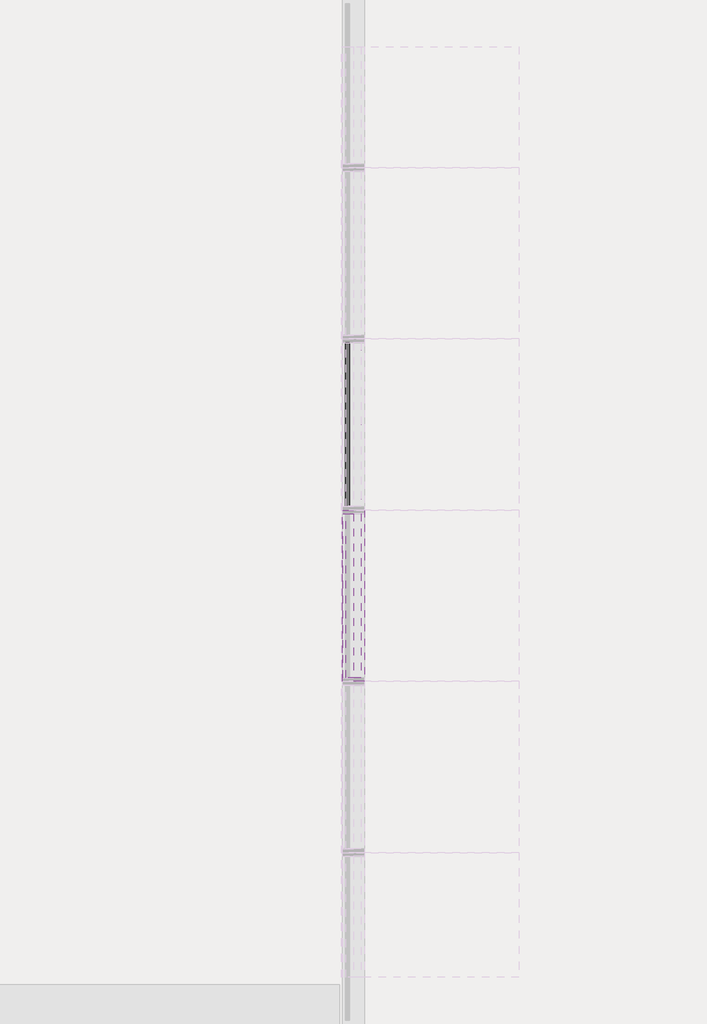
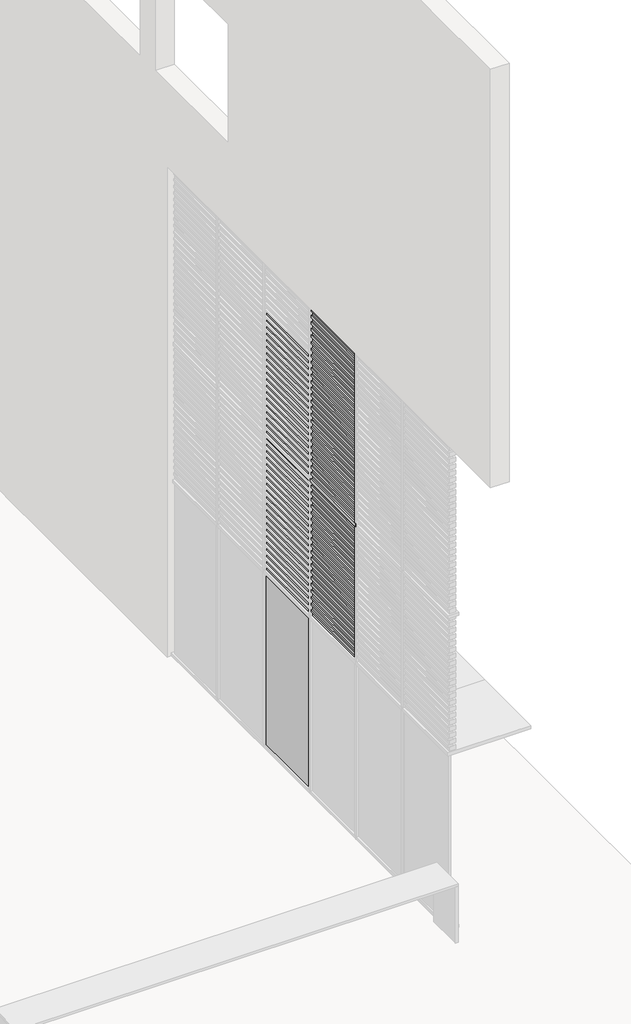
# One storey, part 5 of 8: 89 plates, 47 members.
"""IFC4 building model written with IfcOpenShell, lengths in millimetres."""

from ifc_helpers import new_model, si_unit, origin, place, context, project, spatial, transform, mapped, element, save
from components import rectangular_mullion_50_x_150mm_81a85930, rectangular_mullion_timber_70_x_35_2d2b050c, empty_system_panel_empty_0ae384b7, empty_system_panel_empty_f50b0574, empty_system_panel_empty_9ab0a9e8, system_panel_concept_glazed_5326a568

model = new_model("IFC4")

# Units and contexts
model_context = context("Model", 3, world=origin())
ifc_project = project(units=[si_unit("LENGTHUNIT", "METRE", prefix="MILLI")], contexts=[model_context])

# Site, building, storey
site = spatial("IfcSite", under=ifc_project)
building = spatial("IfcBuilding", under=site)
storey = spatial("IfcBuildingStorey", under=building, Name="0階", Elevation=25100.0)

# Members
placement = place(None, origin())
rectangular_mullion_50_x_150mm_shape = rectangular_mullion_50_x_150mm_81a85930(model_context)
element("IfcMember", 1, ObjectType="Rectangular Mullion : 50 x 150mm", at=placement, inside=storey, context=model_context, shape_type="MappedRepresentation", body=[
    mapped(rectangular_mullion_50_x_150mm_shape, transform((45100.0, 4937.6612462, 29900.0), x_axis=(0.0, 0.0, 1.0), y_axis=(1.0, 0.0, 0.0), z_axis=(0.0, 1.0, 0.0))),
])
rectangular_mullion_timber_70_x_35_shape = rectangular_mullion_timber_70_x_35_2d2b050c(model_context)
element("IfcMember", 2, ObjectType="Rectangular Mullion : Timber - 70 x 35", at=placement, inside=storey, context=model_context, shape_type="MappedRepresentation", body=[
    mapped(rectangular_mullion_timber_70_x_35_shape, transform((45100.0, 4912.6612462, 27907.5), x_axis=(0.0, 0.0, 1.0), y_axis=(1.0, 0.0, 0.0), z_axis=(0.0, 1.0, 0.0))),
])
element("IfcMember", 3, ObjectType="Rectangular Mullion : Timber - 70 x 35", at=placement, inside=storey, context=model_context, shape_type="MappedRepresentation", body=[
    mapped(rectangular_mullion_timber_70_x_35_shape, transform((45100.0, 4912.6612462, 28007.5), x_axis=(0.0, 0.0, 1.0), y_axis=(1.0, 0.0, 0.0), z_axis=(0.0, 1.0, 0.0))),
])
element("IfcMember", 4, ObjectType="Rectangular Mullion : Timber - 70 x 35", at=placement, inside=storey, context=model_context, shape_type="MappedRepresentation", body=[
    mapped(rectangular_mullion_timber_70_x_35_shape, transform((45100.0, 4912.6612462, 28107.5), x_axis=(0.0, 0.0, 1.0), y_axis=(1.0, 0.0, 0.0), z_axis=(0.0, 1.0, 0.0))),
])
element("IfcMember", 5, ObjectType="Rectangular Mullion : Timber - 70 x 35", at=placement, inside=storey, context=model_context, shape_type="MappedRepresentation", body=[
    mapped(rectangular_mullion_timber_70_x_35_shape, transform((45100.0, 4912.6612462, 28207.5), x_axis=(0.0, 0.0, 1.0), y_axis=(1.0, 0.0, 0.0), z_axis=(0.0, 1.0, 0.0))),
])
element("IfcMember", 6, ObjectType="Rectangular Mullion : Timber - 70 x 35", at=placement, inside=storey, context=model_context, shape_type="MappedRepresentation", body=[
    mapped(rectangular_mullion_timber_70_x_35_shape, transform((45100.0, 4912.6612462, 28307.5), x_axis=(0.0, 0.0, 1.0), y_axis=(1.0, 0.0, 0.0), z_axis=(0.0, 1.0, 0.0))),
])
element("IfcMember", 7, ObjectType="Rectangular Mullion : Timber - 70 x 35", at=placement, inside=storey, context=model_context, shape_type="MappedRepresentation", body=[
    mapped(rectangular_mullion_timber_70_x_35_shape, transform((45100.0, 4912.6612462, 28407.5), x_axis=(0.0, 0.0, 1.0), y_axis=(1.0, 0.0, 0.0), z_axis=(0.0, 1.0, 0.0))),
])
element("IfcMember", 8, ObjectType="Rectangular Mullion : Timber - 70 x 35", at=placement, inside=storey, context=model_context, shape_type="MappedRepresentation", body=[
    mapped(rectangular_mullion_timber_70_x_35_shape, transform((45100.0, 4912.6612462, 28507.5), x_axis=(0.0, 0.0, 1.0), y_axis=(1.0, 0.0, 0.0), z_axis=(0.0, 1.0, 0.0))),
])
element("IfcMember", 9, ObjectType="Rectangular Mullion : Timber - 70 x 35", at=placement, inside=storey, context=model_context, shape_type="MappedRepresentation", body=[
    mapped(rectangular_mullion_timber_70_x_35_shape, transform((45100.0, 4912.6612462, 28607.5), x_axis=(0.0, 0.0, 1.0), y_axis=(1.0, 0.0, 0.0), z_axis=(0.0, 1.0, 0.0))),
])
element("IfcMember", 10, ObjectType="Rectangular Mullion : Timber - 70 x 35", at=placement, inside=storey, context=model_context, shape_type="MappedRepresentation", body=[
    mapped(rectangular_mullion_timber_70_x_35_shape, transform((45100.0, 4912.6612462, 28707.5), x_axis=(0.0, 0.0, 1.0), y_axis=(1.0, 0.0, 0.0), z_axis=(0.0, 1.0, 0.0))),
])
element("IfcMember", 11, ObjectType="Rectangular Mullion : Timber - 70 x 35", at=placement, inside=storey, context=model_context, shape_type="MappedRepresentation", body=[
    mapped(rectangular_mullion_timber_70_x_35_shape, transform((45100.0, 4912.6612462, 28807.5), x_axis=(0.0, 0.0, 1.0), y_axis=(1.0, 0.0, 0.0), z_axis=(0.0, 1.0, 0.0))),
])
element("IfcMember", 12, ObjectType="Rectangular Mullion : Timber - 70 x 35", at=placement, inside=storey, context=model_context, shape_type="MappedRepresentation", body=[
    mapped(rectangular_mullion_timber_70_x_35_shape, transform((45100.0, 4912.6612462, 28907.5), x_axis=(0.0, 0.0, 1.0), y_axis=(1.0, 0.0, 0.0), z_axis=(0.0, 1.0, 0.0))),
])
element("IfcMember", 13, ObjectType="Rectangular Mullion : Timber - 70 x 35", at=placement, inside=storey, context=model_context, shape_type="MappedRepresentation", body=[
    mapped(rectangular_mullion_timber_70_x_35_shape, transform((45100.0, 4912.6612462, 29007.5), x_axis=(0.0, 0.0, 1.0), y_axis=(1.0, 0.0, 0.0), z_axis=(0.0, 1.0, 0.0))),
])
element("IfcMember", 14, ObjectType="Rectangular Mullion : Timber - 70 x 35", at=placement, inside=storey, context=model_context, shape_type="MappedRepresentation", body=[
    mapped(rectangular_mullion_timber_70_x_35_shape, transform((45100.0, 4912.6612462, 29107.5), x_axis=(0.0, 0.0, 1.0), y_axis=(1.0, 0.0, 0.0), z_axis=(0.0, 1.0, 0.0))),
])
element("IfcMember", 15, ObjectType="Rectangular Mullion : Timber - 70 x 35", at=placement, inside=storey, context=model_context, shape_type="MappedRepresentation", body=[
    mapped(rectangular_mullion_timber_70_x_35_shape, transform((45100.0, 4912.6612462, 29207.5), x_axis=(0.0, 0.0, 1.0), y_axis=(1.0, 0.0, 0.0), z_axis=(0.0, 1.0, 0.0))),
])
element("IfcMember", 16, ObjectType="Rectangular Mullion : Timber - 70 x 35", at=placement, inside=storey, context=model_context, shape_type="MappedRepresentation", body=[
    mapped(rectangular_mullion_timber_70_x_35_shape, transform((45100.0, 4912.6612462, 29307.5), x_axis=(0.0, 0.0, 1.0), y_axis=(1.0, 0.0, 0.0), z_axis=(0.0, 1.0, 0.0))),
])
element("IfcMember", 17, ObjectType="Rectangular Mullion : Timber - 70 x 35", at=placement, inside=storey, context=model_context, shape_type="MappedRepresentation", body=[
    mapped(rectangular_mullion_timber_70_x_35_shape, transform((45100.0, 4912.6612462, 29407.5), x_axis=(0.0, 0.0, 1.0), y_axis=(1.0, 0.0, 0.0), z_axis=(0.0, 1.0, 0.0))),
])
element("IfcMember", 18, ObjectType="Rectangular Mullion : Timber - 70 x 35", at=placement, inside=storey, context=model_context, shape_type="MappedRepresentation", body=[
    mapped(rectangular_mullion_timber_70_x_35_shape, transform((45100.0, 4912.6612462, 29507.5), x_axis=(0.0, 0.0, 1.0), y_axis=(1.0, 0.0, 0.0), z_axis=(0.0, 1.0, 0.0))),
])
element("IfcMember", 19, ObjectType="Rectangular Mullion : Timber - 70 x 35", at=placement, inside=storey, context=model_context, shape_type="MappedRepresentation", body=[
    mapped(rectangular_mullion_timber_70_x_35_shape, transform((45100.0, 4912.6612462, 29607.5), x_axis=(0.0, 0.0, 1.0), y_axis=(1.0, 0.0, 0.0), z_axis=(0.0, 1.0, 0.0))),
])
element("IfcMember", 20, ObjectType="Rectangular Mullion : Timber - 70 x 35", at=placement, inside=storey, context=model_context, shape_type="MappedRepresentation", body=[
    mapped(rectangular_mullion_timber_70_x_35_shape, transform((45100.0, 4912.6612462, 29707.5), x_axis=(0.0, 0.0, 1.0), y_axis=(1.0, 0.0, 0.0), z_axis=(0.0, 1.0, 0.0))),
])
element("IfcMember", 21, ObjectType="Rectangular Mullion : Timber - 70 x 35", at=placement, inside=storey, context=model_context, shape_type="MappedRepresentation", body=[
    mapped(rectangular_mullion_timber_70_x_35_shape, transform((45100.0, 4912.6612462, 29807.5), x_axis=(0.0, 0.0, 1.0), y_axis=(1.0, 0.0, 0.0), z_axis=(0.0, 1.0, 0.0))),
])
element("IfcMember", 22, ObjectType="Rectangular Mullion : Timber - 70 x 35", at=placement, inside=storey, context=model_context, shape_type="MappedRepresentation", body=[
    mapped(rectangular_mullion_timber_70_x_35_shape, transform((45100.0, 4912.6612462, 30007.5), x_axis=(0.0, 0.0, 1.0), y_axis=(1.0, 0.0, 0.0), z_axis=(0.0, 1.0, 0.0))),
])
element("IfcMember", 23, ObjectType="Rectangular Mullion : Timber - 70 x 35", at=placement, inside=storey, context=model_context, shape_type="MappedRepresentation", body=[
    mapped(rectangular_mullion_timber_70_x_35_shape, transform((45100.0, 4912.6612462, 30107.5), x_axis=(0.0, 0.0, 1.0), y_axis=(1.0, 0.0, 0.0), z_axis=(0.0, 1.0, 0.0))),
])
element("IfcMember", 24, ObjectType="Rectangular Mullion : Timber - 70 x 35", at=placement, inside=storey, context=model_context, shape_type="MappedRepresentation", body=[
    mapped(rectangular_mullion_timber_70_x_35_shape, transform((45100.0, 4912.6612462, 30207.5), x_axis=(0.0, 0.0, 1.0), y_axis=(1.0, 0.0, 0.0), z_axis=(0.0, 1.0, 0.0))),
])
element("IfcMember", 25, ObjectType="Rectangular Mullion : Timber - 70 x 35", at=placement, inside=storey, context=model_context, shape_type="MappedRepresentation", body=[
    mapped(rectangular_mullion_timber_70_x_35_shape, transform((45100.0, 4912.6612462, 30307.5), x_axis=(0.0, 0.0, 1.0), y_axis=(1.0, 0.0, 0.0), z_axis=(0.0, 1.0, 0.0))),
])
element("IfcMember", 26, ObjectType="Rectangular Mullion : Timber - 70 x 35", at=placement, inside=storey, context=model_context, shape_type="MappedRepresentation", body=[
    mapped(rectangular_mullion_timber_70_x_35_shape, transform((45100.0, 4912.6612462, 30407.5), x_axis=(0.0, 0.0, 1.0), y_axis=(1.0, 0.0, 0.0), z_axis=(0.0, 1.0, 0.0))),
])
element("IfcMember", 27, ObjectType="Rectangular Mullion : Timber - 70 x 35", at=placement, inside=storey, context=model_context, shape_type="MappedRepresentation", body=[
    mapped(rectangular_mullion_timber_70_x_35_shape, transform((45100.0, 4912.6612462, 30507.5), x_axis=(0.0, 0.0, 1.0), y_axis=(1.0, 0.0, 0.0), z_axis=(0.0, 1.0, 0.0))),
])
element("IfcMember", 28, ObjectType="Rectangular Mullion : Timber - 70 x 35", at=placement, inside=storey, context=model_context, shape_type="MappedRepresentation", body=[
    mapped(rectangular_mullion_timber_70_x_35_shape, transform((45100.0, 4912.6612462, 30607.5), x_axis=(0.0, 0.0, 1.0), y_axis=(1.0, 0.0, 0.0), z_axis=(0.0, 1.0, 0.0))),
])
element("IfcMember", 29, ObjectType="Rectangular Mullion : Timber - 70 x 35", at=placement, inside=storey, context=model_context, shape_type="MappedRepresentation", body=[
    mapped(rectangular_mullion_timber_70_x_35_shape, transform((45100.0, 4912.6612462, 30707.5), x_axis=(0.0, 0.0, 1.0), y_axis=(1.0, 0.0, 0.0), z_axis=(0.0, 1.0, 0.0))),
])
element("IfcMember", 30, ObjectType="Rectangular Mullion : Timber - 70 x 35", at=placement, inside=storey, context=model_context, shape_type="MappedRepresentation", body=[
    mapped(rectangular_mullion_timber_70_x_35_shape, transform((45100.0, 4912.6612462, 30807.5), x_axis=(0.0, 0.0, 1.0), y_axis=(1.0, 0.0, 0.0), z_axis=(0.0, 1.0, 0.0))),
])
element("IfcMember", 31, ObjectType="Rectangular Mullion : Timber - 70 x 35", at=placement, inside=storey, context=model_context, shape_type="MappedRepresentation", body=[
    mapped(rectangular_mullion_timber_70_x_35_shape, transform((45100.0, 4912.6612462, 30907.5), x_axis=(0.0, 0.0, 1.0), y_axis=(1.0, 0.0, 0.0), z_axis=(0.0, 1.0, 0.0))),
])
element("IfcMember", 32, ObjectType="Rectangular Mullion : Timber - 70 x 35", at=placement, inside=storey, context=model_context, shape_type="MappedRepresentation", body=[
    mapped(rectangular_mullion_timber_70_x_35_shape, transform((45100.0, 4912.6612462, 31007.5), x_axis=(0.0, 0.0, 1.0), y_axis=(1.0, 0.0, 0.0), z_axis=(0.0, 1.0, 0.0))),
])
element("IfcMember", 33, ObjectType="Rectangular Mullion : Timber - 70 x 35", at=placement, inside=storey, context=model_context, shape_type="MappedRepresentation", body=[
    mapped(rectangular_mullion_timber_70_x_35_shape, transform((45100.0, 4912.6612462, 31107.5), x_axis=(0.0, 0.0, 1.0), y_axis=(1.0, 0.0, 0.0), z_axis=(0.0, 1.0, 0.0))),
])
element("IfcMember", 34, ObjectType="Rectangular Mullion : Timber - 70 x 35", at=placement, inside=storey, context=model_context, shape_type="MappedRepresentation", body=[
    mapped(rectangular_mullion_timber_70_x_35_shape, transform((45100.0, 4912.6612462, 31207.5), x_axis=(0.0, 0.0, 1.0), y_axis=(1.0, 0.0, 0.0), z_axis=(0.0, 1.0, 0.0))),
])
element("IfcMember", 35, ObjectType="Rectangular Mullion : Timber - 70 x 35", at=placement, inside=storey, context=model_context, shape_type="MappedRepresentation", body=[
    mapped(rectangular_mullion_timber_70_x_35_shape, transform((45100.0, 4912.6612462, 31307.5), x_axis=(0.0, 0.0, 1.0), y_axis=(1.0, 0.0, 0.0), z_axis=(0.0, 1.0, 0.0))),
])
element("IfcMember", 36, ObjectType="Rectangular Mullion : Timber - 70 x 35", at=placement, inside=storey, context=model_context, shape_type="MappedRepresentation", body=[
    mapped(rectangular_mullion_timber_70_x_35_shape, transform((45100.0, 4912.6612462, 31407.5), x_axis=(0.0, 0.0, 1.0), y_axis=(1.0, 0.0, 0.0), z_axis=(0.0, 1.0, 0.0))),
])
element("IfcMember", 37, ObjectType="Rectangular Mullion : Timber - 70 x 35", at=placement, inside=storey, context=model_context, shape_type="MappedRepresentation", body=[
    mapped(rectangular_mullion_timber_70_x_35_shape, transform((45100.0, 4912.6612462, 31507.5), x_axis=(0.0, 0.0, 1.0), y_axis=(1.0, 0.0, 0.0), z_axis=(0.0, 1.0, 0.0))),
])
element("IfcMember", 38, ObjectType="Rectangular Mullion : Timber - 70 x 35", at=placement, inside=storey, context=model_context, shape_type="MappedRepresentation", body=[
    mapped(rectangular_mullion_timber_70_x_35_shape, transform((45100.0, 4912.6612462, 31607.5), x_axis=(0.0, 0.0, 1.0), y_axis=(1.0, 0.0, 0.0), z_axis=(0.0, 1.0, 0.0))),
])
element("IfcMember", 39, ObjectType="Rectangular Mullion : Timber - 70 x 35", at=placement, inside=storey, context=model_context, shape_type="MappedRepresentation", body=[
    mapped(rectangular_mullion_timber_70_x_35_shape, transform((45100.0, 4912.6612462, 31707.5), x_axis=(0.0, 0.0, 1.0), y_axis=(1.0, 0.0, 0.0), z_axis=(0.0, 1.0, 0.0))),
])
element("IfcMember", 40, ObjectType="Rectangular Mullion : Timber - 70 x 35", at=placement, inside=storey, context=model_context, shape_type="MappedRepresentation", body=[
    mapped(rectangular_mullion_timber_70_x_35_shape, transform((45100.0, 4912.6612462, 31807.5), x_axis=(0.0, 0.0, 1.0), y_axis=(1.0, 0.0, 0.0), z_axis=(0.0, 1.0, 0.0))),
])
element("IfcMember", 41, ObjectType="Rectangular Mullion : Timber - 70 x 35", at=placement, inside=storey, context=model_context, shape_type="MappedRepresentation", body=[
    mapped(rectangular_mullion_timber_70_x_35_shape, transform((45100.0, 4912.6612462, 31907.5), x_axis=(0.0, 0.0, 1.0), y_axis=(1.0, 0.0, 0.0), z_axis=(0.0, 1.0, 0.0))),
])
element("IfcMember", 42, ObjectType="Rectangular Mullion : Timber - 70 x 35", at=placement, inside=storey, context=model_context, shape_type="MappedRepresentation", body=[
    mapped(rectangular_mullion_timber_70_x_35_shape, transform((45100.0, 4912.6612462, 32007.5), x_axis=(0.0, 0.0, 1.0), y_axis=(1.0, 0.0, 0.0), z_axis=(0.0, 1.0, 0.0))),
])
element("IfcMember", 43, ObjectType="Rectangular Mullion : Timber - 70 x 35", at=placement, inside=storey, context=model_context, shape_type="MappedRepresentation", body=[
    mapped(rectangular_mullion_timber_70_x_35_shape, transform((45100.0, 4912.6612462, 32107.5), x_axis=(0.0, 0.0, 1.0), y_axis=(1.0, 0.0, 0.0), z_axis=(0.0, 1.0, 0.0))),
])
element("IfcMember", 44, ObjectType="Rectangular Mullion : Timber - 70 x 35", at=placement, inside=storey, context=model_context, shape_type="MappedRepresentation", body=[
    mapped(rectangular_mullion_timber_70_x_35_shape, transform((45100.0, 4912.6612462, 32207.5), x_axis=(0.0, 0.0, 1.0), y_axis=(1.0, 0.0, 0.0), z_axis=(0.0, 1.0, 0.0))),
])
element("IfcMember", 45, ObjectType="Rectangular Mullion : Timber - 70 x 35", at=placement, inside=storey, context=model_context, shape_type="MappedRepresentation", body=[
    mapped(rectangular_mullion_timber_70_x_35_shape, transform((45100.0, 4912.6612462, 32307.5), x_axis=(0.0, 0.0, 1.0), y_axis=(1.0, 0.0, 0.0), z_axis=(0.0, 1.0, 0.0))),
])
element("IfcMember", 46, ObjectType="Rectangular Mullion : Timber - 70 x 35", at=placement, inside=storey, context=model_context, shape_type="MappedRepresentation", body=[
    mapped(rectangular_mullion_timber_70_x_35_shape, transform((45100.0, 4912.6612462, 32407.5), x_axis=(0.0, 0.0, 1.0), y_axis=(1.0, 0.0, 0.0), z_axis=(0.0, 1.0, 0.0))),
])
element("IfcMember", 47, ObjectType="Rectangular Mullion : Timber - 70 x 35", at=placement, inside=storey, context=model_context, shape_type="MappedRepresentation", body=[
    mapped(rectangular_mullion_timber_70_x_35_shape, transform((45100.0, 4912.6612462, 32507.5), x_axis=(0.0, 0.0, 1.0), y_axis=(1.0, 0.0, 0.0), z_axis=(0.0, 1.0, 0.0))),
])

# Plates
empty_system_panel_empty_shape = empty_system_panel_empty_0ae384b7(model_context)
element("IfcPlate", 48, ObjectType="Empty System Panel : Empty", at=placement, inside=storey, context=model_context, shape_type="MappedRepresentation", body=[
    mapped(empty_system_panel_empty_shape, transform((45100.0, 4359.0898177, 29825.0), x_axis=(0.0, 1.0, 0.0), y_axis=(-1.0, 0.0, 0.0), z_axis=(0.0, 0.0, 1.0))),
])
element("IfcPlate", 49, ObjectType="Empty System Panel : Empty", at=placement, inside=storey, context=model_context, shape_type="MappedRepresentation", body=[
    mapped(empty_system_panel_empty_shape, transform((45100.0, 5516.2326748, 29825.0), x_axis=(0.0, 1.0, 0.0), y_axis=(-1.0, 0.0, 0.0), z_axis=(0.0, 0.0, 1.0))),
])
empty_system_panel_empty_2_shape = empty_system_panel_empty_f50b0574(model_context)
element("IfcPlate", 50, ObjectType="Empty System Panel : Empty", at=placement, inside=storey, context=model_context, shape_type="MappedRepresentation", body=[
    mapped(empty_system_panel_empty_2_shape, transform((45100.0, 4359.0898177, 32525.0), x_axis=(0.0, 1.0, 0.0), y_axis=(-1.0, 0.0, 0.0), z_axis=(0.0, 0.0, 1.0))),
])
empty_system_panel_empty_3_shape = empty_system_panel_empty_9ab0a9e8(model_context)
element("IfcPlate", 51, ObjectType="Empty System Panel : Empty", at=placement, inside=storey, context=model_context, shape_type="MappedRepresentation", body=[
    mapped(empty_system_panel_empty_3_shape, transform((45100.0, 4359.0898177, 27825.0), x_axis=(0.0, 1.0, 0.0), y_axis=(-1.0, 0.0, 0.0), z_axis=(0.0, 0.0, 1.0))),
])
element("IfcPlate", 52, ObjectType="Empty System Panel : Empty", at=placement, inside=storey, context=model_context, shape_type="MappedRepresentation", body=[
    mapped(empty_system_panel_empty_3_shape, transform((45100.0, 5516.2326748, 27825.0), x_axis=(0.0, 1.0, 0.0), y_axis=(-1.0, 0.0, 0.0), z_axis=(0.0, 0.0, 1.0))),
])
element("IfcPlate", 53, ObjectType="Empty System Panel : Empty", at=placement, inside=storey, context=model_context, shape_type="MappedRepresentation", body=[
    mapped(empty_system_panel_empty_3_shape, transform((45100.0, 4359.0898177, 29925.0), x_axis=(0.0, 1.0, 0.0), y_axis=(-1.0, 0.0, 0.0), z_axis=(0.0, 0.0, 1.0))),
])
element("IfcPlate", 54, ObjectType="Empty System Panel : Empty", at=placement, inside=storey, context=model_context, shape_type="MappedRepresentation", body=[
    mapped(empty_system_panel_empty_3_shape, transform((45100.0, 5516.2326748, 29925.0), x_axis=(0.0, 1.0, 0.0), y_axis=(-1.0, 0.0, 0.0), z_axis=(0.0, 0.0, 1.0))),
])
element("IfcPlate", 55, ObjectType="Empty System Panel : Empty", at=placement, inside=storey, context=model_context, shape_type="MappedRepresentation", body=[
    mapped(empty_system_panel_empty_3_shape, transform((45100.0, 4359.0898177, 27925.0), x_axis=(0.0, 1.0, 0.0), y_axis=(-1.0, 0.0, 0.0), z_axis=(0.0, 0.0, 1.0))),
])
element("IfcPlate", 56, ObjectType="Empty System Panel : Empty", at=placement, inside=storey, context=model_context, shape_type="MappedRepresentation", body=[
    mapped(empty_system_panel_empty_3_shape, transform((45100.0, 4359.0898177, 28025.0), x_axis=(0.0, 1.0, 0.0), y_axis=(-1.0, 0.0, 0.0), z_axis=(0.0, 0.0, 1.0))),
])
element("IfcPlate", 57, ObjectType="Empty System Panel : Empty", at=placement, inside=storey, context=model_context, shape_type="MappedRepresentation", body=[
    mapped(empty_system_panel_empty_3_shape, transform((45100.0, 4359.0898177, 28125.0), x_axis=(0.0, 1.0, 0.0), y_axis=(-1.0, 0.0, 0.0), z_axis=(0.0, 0.0, 1.0))),
])
element("IfcPlate", 58, ObjectType="Empty System Panel : Empty", at=placement, inside=storey, context=model_context, shape_type="MappedRepresentation", body=[
    mapped(empty_system_panel_empty_3_shape, transform((45100.0, 4359.0898177, 28225.0), x_axis=(0.0, 1.0, 0.0), y_axis=(-1.0, 0.0, 0.0), z_axis=(0.0, 0.0, 1.0))),
])
element("IfcPlate", 59, ObjectType="Empty System Panel : Empty", at=placement, inside=storey, context=model_context, shape_type="MappedRepresentation", body=[
    mapped(empty_system_panel_empty_3_shape, transform((45100.0, 4359.0898177, 28325.0), x_axis=(0.0, 1.0, 0.0), y_axis=(-1.0, 0.0, 0.0), z_axis=(0.0, 0.0, 1.0))),
])
element("IfcPlate", 60, ObjectType="Empty System Panel : Empty", at=placement, inside=storey, context=model_context, shape_type="MappedRepresentation", body=[
    mapped(empty_system_panel_empty_3_shape, transform((45100.0, 4359.0898177, 28425.0), x_axis=(0.0, 1.0, 0.0), y_axis=(-1.0, 0.0, 0.0), z_axis=(0.0, 0.0, 1.0))),
])
element("IfcPlate", 61, ObjectType="Empty System Panel : Empty", at=placement, inside=storey, context=model_context, shape_type="MappedRepresentation", body=[
    mapped(empty_system_panel_empty_3_shape, transform((45100.0, 4359.0898177, 28525.0), x_axis=(0.0, 1.0, 0.0), y_axis=(-1.0, 0.0, 0.0), z_axis=(0.0, 0.0, 1.0))),
])
element("IfcPlate", 62, ObjectType="Empty System Panel : Empty", at=placement, inside=storey, context=model_context, shape_type="MappedRepresentation", body=[
    mapped(empty_system_panel_empty_3_shape, transform((45100.0, 4359.0898177, 28625.0), x_axis=(0.0, 1.0, 0.0), y_axis=(-1.0, 0.0, 0.0), z_axis=(0.0, 0.0, 1.0))),
])
element("IfcPlate", 63, ObjectType="Empty System Panel : Empty", at=placement, inside=storey, context=model_context, shape_type="MappedRepresentation", body=[
    mapped(empty_system_panel_empty_3_shape, transform((45100.0, 4359.0898177, 28725.0), x_axis=(0.0, 1.0, 0.0), y_axis=(-1.0, 0.0, 0.0), z_axis=(0.0, 0.0, 1.0))),
])
element("IfcPlate", 64, ObjectType="Empty System Panel : Empty", at=placement, inside=storey, context=model_context, shape_type="MappedRepresentation", body=[
    mapped(empty_system_panel_empty_3_shape, transform((45100.0, 4359.0898177, 28825.0), x_axis=(0.0, 1.0, 0.0), y_axis=(-1.0, 0.0, 0.0), z_axis=(0.0, 0.0, 1.0))),
])
element("IfcPlate", 65, ObjectType="Empty System Panel : Empty", at=placement, inside=storey, context=model_context, shape_type="MappedRepresentation", body=[
    mapped(empty_system_panel_empty_3_shape, transform((45100.0, 4359.0898177, 28925.0), x_axis=(0.0, 1.0, 0.0), y_axis=(-1.0, 0.0, 0.0), z_axis=(0.0, 0.0, 1.0))),
])
element("IfcPlate", 66, ObjectType="Empty System Panel : Empty", at=placement, inside=storey, context=model_context, shape_type="MappedRepresentation", body=[
    mapped(empty_system_panel_empty_3_shape, transform((45100.0, 4359.0898177, 29025.0), x_axis=(0.0, 1.0, 0.0), y_axis=(-1.0, 0.0, 0.0), z_axis=(0.0, 0.0, 1.0))),
])
element("IfcPlate", 67, ObjectType="Empty System Panel : Empty", at=placement, inside=storey, context=model_context, shape_type="MappedRepresentation", body=[
    mapped(empty_system_panel_empty_3_shape, transform((45100.0, 4359.0898177, 29125.0), x_axis=(0.0, 1.0, 0.0), y_axis=(-1.0, 0.0, 0.0), z_axis=(0.0, 0.0, 1.0))),
])
element("IfcPlate", 68, ObjectType="Empty System Panel : Empty", at=placement, inside=storey, context=model_context, shape_type="MappedRepresentation", body=[
    mapped(empty_system_panel_empty_3_shape, transform((45100.0, 4359.0898177, 29225.0), x_axis=(0.0, 1.0, 0.0), y_axis=(-1.0, 0.0, 0.0), z_axis=(0.0, 0.0, 1.0))),
])
element("IfcPlate", 69, ObjectType="Empty System Panel : Empty", at=placement, inside=storey, context=model_context, shape_type="MappedRepresentation", body=[
    mapped(empty_system_panel_empty_3_shape, transform((45100.0, 4359.0898177, 29325.0), x_axis=(0.0, 1.0, 0.0), y_axis=(-1.0, 0.0, 0.0), z_axis=(0.0, 0.0, 1.0))),
])
element("IfcPlate", 70, ObjectType="Empty System Panel : Empty", at=placement, inside=storey, context=model_context, shape_type="MappedRepresentation", body=[
    mapped(empty_system_panel_empty_3_shape, transform((45100.0, 4359.0898177, 29425.0), x_axis=(0.0, 1.0, 0.0), y_axis=(-1.0, 0.0, 0.0), z_axis=(0.0, 0.0, 1.0))),
])
element("IfcPlate", 71, ObjectType="Empty System Panel : Empty", at=placement, inside=storey, context=model_context, shape_type="MappedRepresentation", body=[
    mapped(empty_system_panel_empty_3_shape, transform((45100.0, 4359.0898177, 29525.0), x_axis=(0.0, 1.0, 0.0), y_axis=(-1.0, 0.0, 0.0), z_axis=(0.0, 0.0, 1.0))),
])
element("IfcPlate", 72, ObjectType="Empty System Panel : Empty", at=placement, inside=storey, context=model_context, shape_type="MappedRepresentation", body=[
    mapped(empty_system_panel_empty_3_shape, transform((45100.0, 4359.0898177, 29625.0), x_axis=(0.0, 1.0, 0.0), y_axis=(-1.0, 0.0, 0.0), z_axis=(0.0, 0.0, 1.0))),
])
element("IfcPlate", 73, ObjectType="Empty System Panel : Empty", at=placement, inside=storey, context=model_context, shape_type="MappedRepresentation", body=[
    mapped(empty_system_panel_empty_3_shape, transform((45100.0, 4359.0898177, 29725.0), x_axis=(0.0, 1.0, 0.0), y_axis=(-1.0, 0.0, 0.0), z_axis=(0.0, 0.0, 1.0))),
])
element("IfcPlate", 74, ObjectType="Empty System Panel : Empty", at=placement, inside=storey, context=model_context, shape_type="MappedRepresentation", body=[
    mapped(empty_system_panel_empty_3_shape, transform((45100.0, 5516.2326748, 27925.0), x_axis=(0.0, 1.0, 0.0), y_axis=(-1.0, 0.0, 0.0), z_axis=(0.0, 0.0, 1.0))),
])
element("IfcPlate", 75, ObjectType="Empty System Panel : Empty", at=placement, inside=storey, context=model_context, shape_type="MappedRepresentation", body=[
    mapped(empty_system_panel_empty_3_shape, transform((45100.0, 5516.2326748, 28025.0), x_axis=(0.0, 1.0, 0.0), y_axis=(-1.0, 0.0, 0.0), z_axis=(0.0, 0.0, 1.0))),
])
element("IfcPlate", 76, ObjectType="Empty System Panel : Empty", at=placement, inside=storey, context=model_context, shape_type="MappedRepresentation", body=[
    mapped(empty_system_panel_empty_3_shape, transform((45100.0, 5516.2326748, 28125.0), x_axis=(0.0, 1.0, 0.0), y_axis=(-1.0, 0.0, 0.0), z_axis=(0.0, 0.0, 1.0))),
])
element("IfcPlate", 77, ObjectType="Empty System Panel : Empty", at=placement, inside=storey, context=model_context, shape_type="MappedRepresentation", body=[
    mapped(empty_system_panel_empty_3_shape, transform((45100.0, 5516.2326748, 28225.0), x_axis=(0.0, 1.0, 0.0), y_axis=(-1.0, 0.0, 0.0), z_axis=(0.0, 0.0, 1.0))),
])
element("IfcPlate", 78, ObjectType="Empty System Panel : Empty", at=placement, inside=storey, context=model_context, shape_type="MappedRepresentation", body=[
    mapped(empty_system_panel_empty_3_shape, transform((45100.0, 5516.2326748, 28325.0), x_axis=(0.0, 1.0, 0.0), y_axis=(-1.0, 0.0, 0.0), z_axis=(0.0, 0.0, 1.0))),
])
element("IfcPlate", 79, ObjectType="Empty System Panel : Empty", at=placement, inside=storey, context=model_context, shape_type="MappedRepresentation", body=[
    mapped(empty_system_panel_empty_3_shape, transform((45100.0, 5516.2326748, 28425.0), x_axis=(0.0, 1.0, 0.0), y_axis=(-1.0, 0.0, 0.0), z_axis=(0.0, 0.0, 1.0))),
])
element("IfcPlate", 80, ObjectType="Empty System Panel : Empty", at=placement, inside=storey, context=model_context, shape_type="MappedRepresentation", body=[
    mapped(empty_system_panel_empty_3_shape, transform((45100.0, 5516.2326748, 28525.0), x_axis=(0.0, 1.0, 0.0), y_axis=(-1.0, 0.0, 0.0), z_axis=(0.0, 0.0, 1.0))),
])
element("IfcPlate", 81, ObjectType="Empty System Panel : Empty", at=placement, inside=storey, context=model_context, shape_type="MappedRepresentation", body=[
    mapped(empty_system_panel_empty_3_shape, transform((45100.0, 5516.2326748, 28625.0), x_axis=(0.0, 1.0, 0.0), y_axis=(-1.0, 0.0, 0.0), z_axis=(0.0, 0.0, 1.0))),
])
element("IfcPlate", 82, ObjectType="Empty System Panel : Empty", at=placement, inside=storey, context=model_context, shape_type="MappedRepresentation", body=[
    mapped(empty_system_panel_empty_3_shape, transform((45100.0, 5516.2326748, 28725.0), x_axis=(0.0, 1.0, 0.0), y_axis=(-1.0, 0.0, 0.0), z_axis=(0.0, 0.0, 1.0))),
])
element("IfcPlate", 83, ObjectType="Empty System Panel : Empty", at=placement, inside=storey, context=model_context, shape_type="MappedRepresentation", body=[
    mapped(empty_system_panel_empty_3_shape, transform((45100.0, 5516.2326748, 28825.0), x_axis=(0.0, 1.0, 0.0), y_axis=(-1.0, 0.0, 0.0), z_axis=(0.0, 0.0, 1.0))),
])
element("IfcPlate", 84, ObjectType="Empty System Panel : Empty", at=placement, inside=storey, context=model_context, shape_type="MappedRepresentation", body=[
    mapped(empty_system_panel_empty_3_shape, transform((45100.0, 5516.2326748, 28925.0), x_axis=(0.0, 1.0, 0.0), y_axis=(-1.0, 0.0, 0.0), z_axis=(0.0, 0.0, 1.0))),
])
element("IfcPlate", 85, ObjectType="Empty System Panel : Empty", at=placement, inside=storey, context=model_context, shape_type="MappedRepresentation", body=[
    mapped(empty_system_panel_empty_3_shape, transform((45100.0, 5516.2326748, 29025.0), x_axis=(0.0, 1.0, 0.0), y_axis=(-1.0, 0.0, 0.0), z_axis=(0.0, 0.0, 1.0))),
])
element("IfcPlate", 86, ObjectType="Empty System Panel : Empty", at=placement, inside=storey, context=model_context, shape_type="MappedRepresentation", body=[
    mapped(empty_system_panel_empty_3_shape, transform((45100.0, 5516.2326748, 29125.0), x_axis=(0.0, 1.0, 0.0), y_axis=(-1.0, 0.0, 0.0), z_axis=(0.0, 0.0, 1.0))),
])
element("IfcPlate", 87, ObjectType="Empty System Panel : Empty", at=placement, inside=storey, context=model_context, shape_type="MappedRepresentation", body=[
    mapped(empty_system_panel_empty_3_shape, transform((45100.0, 5516.2326748, 29225.0), x_axis=(0.0, 1.0, 0.0), y_axis=(-1.0, 0.0, 0.0), z_axis=(0.0, 0.0, 1.0))),
])
element("IfcPlate", 88, ObjectType="Empty System Panel : Empty", at=placement, inside=storey, context=model_context, shape_type="MappedRepresentation", body=[
    mapped(empty_system_panel_empty_3_shape, transform((45100.0, 5516.2326748, 29325.0), x_axis=(0.0, 1.0, 0.0), y_axis=(-1.0, 0.0, 0.0), z_axis=(0.0, 0.0, 1.0))),
])
element("IfcPlate", 89, ObjectType="Empty System Panel : Empty", at=placement, inside=storey, context=model_context, shape_type="MappedRepresentation", body=[
    mapped(empty_system_panel_empty_3_shape, transform((45100.0, 5516.2326748, 29425.0), x_axis=(0.0, 1.0, 0.0), y_axis=(-1.0, 0.0, 0.0), z_axis=(0.0, 0.0, 1.0))),
])
element("IfcPlate", 90, ObjectType="Empty System Panel : Empty", at=placement, inside=storey, context=model_context, shape_type="MappedRepresentation", body=[
    mapped(empty_system_panel_empty_3_shape, transform((45100.0, 5516.2326748, 29525.0), x_axis=(0.0, 1.0, 0.0), y_axis=(-1.0, 0.0, 0.0), z_axis=(0.0, 0.0, 1.0))),
])
element("IfcPlate", 91, ObjectType="Empty System Panel : Empty", at=placement, inside=storey, context=model_context, shape_type="MappedRepresentation", body=[
    mapped(empty_system_panel_empty_3_shape, transform((45100.0, 5516.2326748, 29625.0), x_axis=(0.0, 1.0, 0.0), y_axis=(-1.0, 0.0, 0.0), z_axis=(0.0, 0.0, 1.0))),
])
element("IfcPlate", 92, ObjectType="Empty System Panel : Empty", at=placement, inside=storey, context=model_context, shape_type="MappedRepresentation", body=[
    mapped(empty_system_panel_empty_3_shape, transform((45100.0, 5516.2326748, 29725.0), x_axis=(0.0, 1.0, 0.0), y_axis=(-1.0, 0.0, 0.0), z_axis=(0.0, 0.0, 1.0))),
])
element("IfcPlate", 93, ObjectType="Empty System Panel : Empty", at=placement, inside=storey, context=model_context, shape_type="MappedRepresentation", body=[
    mapped(empty_system_panel_empty_3_shape, transform((45100.0, 4359.0898177, 30025.0), x_axis=(0.0, 1.0, 0.0), y_axis=(-1.0, 0.0, 0.0), z_axis=(0.0, 0.0, 1.0))),
])
element("IfcPlate", 94, ObjectType="Empty System Panel : Empty", at=placement, inside=storey, context=model_context, shape_type="MappedRepresentation", body=[
    mapped(empty_system_panel_empty_3_shape, transform((45100.0, 4359.0898177, 30125.0), x_axis=(0.0, 1.0, 0.0), y_axis=(-1.0, 0.0, 0.0), z_axis=(0.0, 0.0, 1.0))),
])
element("IfcPlate", 95, ObjectType="Empty System Panel : Empty", at=placement, inside=storey, context=model_context, shape_type="MappedRepresentation", body=[
    mapped(empty_system_panel_empty_3_shape, transform((45100.0, 4359.0898177, 30225.0), x_axis=(0.0, 1.0, 0.0), y_axis=(-1.0, 0.0, 0.0), z_axis=(0.0, 0.0, 1.0))),
])
element("IfcPlate", 96, ObjectType="Empty System Panel : Empty", at=placement, inside=storey, context=model_context, shape_type="MappedRepresentation", body=[
    mapped(empty_system_panel_empty_3_shape, transform((45100.0, 4359.0898177, 30325.0), x_axis=(0.0, 1.0, 0.0), y_axis=(-1.0, 0.0, 0.0), z_axis=(0.0, 0.0, 1.0))),
])
element("IfcPlate", 97, ObjectType="Empty System Panel : Empty", at=placement, inside=storey, context=model_context, shape_type="MappedRepresentation", body=[
    mapped(empty_system_panel_empty_3_shape, transform((45100.0, 4359.0898177, 30425.0), x_axis=(0.0, 1.0, 0.0), y_axis=(-1.0, 0.0, 0.0), z_axis=(0.0, 0.0, 1.0))),
])
element("IfcPlate", 98, ObjectType="Empty System Panel : Empty", at=placement, inside=storey, context=model_context, shape_type="MappedRepresentation", body=[
    mapped(empty_system_panel_empty_3_shape, transform((45100.0, 4359.0898177, 30525.0), x_axis=(0.0, 1.0, 0.0), y_axis=(-1.0, 0.0, 0.0), z_axis=(0.0, 0.0, 1.0))),
])
element("IfcPlate", 99, ObjectType="Empty System Panel : Empty", at=placement, inside=storey, context=model_context, shape_type="MappedRepresentation", body=[
    mapped(empty_system_panel_empty_3_shape, transform((45100.0, 4359.0898177, 30625.0), x_axis=(0.0, 1.0, 0.0), y_axis=(-1.0, 0.0, 0.0), z_axis=(0.0, 0.0, 1.0))),
])
element("IfcPlate", 100, ObjectType="Empty System Panel : Empty", at=placement, inside=storey, context=model_context, shape_type="MappedRepresentation", body=[
    mapped(empty_system_panel_empty_3_shape, transform((45100.0, 4359.0898177, 30725.0), x_axis=(0.0, 1.0, 0.0), y_axis=(-1.0, 0.0, 0.0), z_axis=(0.0, 0.0, 1.0))),
])
element("IfcPlate", 101, ObjectType="Empty System Panel : Empty", at=placement, inside=storey, context=model_context, shape_type="MappedRepresentation", body=[
    mapped(empty_system_panel_empty_3_shape, transform((45100.0, 4359.0898177, 30825.0), x_axis=(0.0, 1.0, 0.0), y_axis=(-1.0, 0.0, 0.0), z_axis=(0.0, 0.0, 1.0))),
])
element("IfcPlate", 102, ObjectType="Empty System Panel : Empty", at=placement, inside=storey, context=model_context, shape_type="MappedRepresentation", body=[
    mapped(empty_system_panel_empty_3_shape, transform((45100.0, 4359.0898177, 30925.0), x_axis=(0.0, 1.0, 0.0), y_axis=(-1.0, 0.0, 0.0), z_axis=(0.0, 0.0, 1.0))),
])
element("IfcPlate", 103, ObjectType="Empty System Panel : Empty", at=placement, inside=storey, context=model_context, shape_type="MappedRepresentation", body=[
    mapped(empty_system_panel_empty_3_shape, transform((45100.0, 4359.0898177, 31025.0), x_axis=(0.0, 1.0, 0.0), y_axis=(-1.0, 0.0, 0.0), z_axis=(0.0, 0.0, 1.0))),
])
element("IfcPlate", 104, ObjectType="Empty System Panel : Empty", at=placement, inside=storey, context=model_context, shape_type="MappedRepresentation", body=[
    mapped(empty_system_panel_empty_3_shape, transform((45100.0, 4359.0898177, 31125.0), x_axis=(0.0, 1.0, 0.0), y_axis=(-1.0, 0.0, 0.0), z_axis=(0.0, 0.0, 1.0))),
])
element("IfcPlate", 105, ObjectType="Empty System Panel : Empty", at=placement, inside=storey, context=model_context, shape_type="MappedRepresentation", body=[
    mapped(empty_system_panel_empty_3_shape, transform((45100.0, 4359.0898177, 31225.0), x_axis=(0.0, 1.0, 0.0), y_axis=(-1.0, 0.0, 0.0), z_axis=(0.0, 0.0, 1.0))),
])
element("IfcPlate", 106, ObjectType="Empty System Panel : Empty", at=placement, inside=storey, context=model_context, shape_type="MappedRepresentation", body=[
    mapped(empty_system_panel_empty_3_shape, transform((45100.0, 4359.0898177, 31325.0), x_axis=(0.0, 1.0, 0.0), y_axis=(-1.0, 0.0, 0.0), z_axis=(0.0, 0.0, 1.0))),
])
element("IfcPlate", 107, ObjectType="Empty System Panel : Empty", at=placement, inside=storey, context=model_context, shape_type="MappedRepresentation", body=[
    mapped(empty_system_panel_empty_3_shape, transform((45100.0, 4359.0898177, 31425.0), x_axis=(0.0, 1.0, 0.0), y_axis=(-1.0, 0.0, 0.0), z_axis=(0.0, 0.0, 1.0))),
])
element("IfcPlate", 108, ObjectType="Empty System Panel : Empty", at=placement, inside=storey, context=model_context, shape_type="MappedRepresentation", body=[
    mapped(empty_system_panel_empty_3_shape, transform((45100.0, 4359.0898177, 31525.0), x_axis=(0.0, 1.0, 0.0), y_axis=(-1.0, 0.0, 0.0), z_axis=(0.0, 0.0, 1.0))),
])
element("IfcPlate", 109, ObjectType="Empty System Panel : Empty", at=placement, inside=storey, context=model_context, shape_type="MappedRepresentation", body=[
    mapped(empty_system_panel_empty_3_shape, transform((45100.0, 4359.0898177, 31625.0), x_axis=(0.0, 1.0, 0.0), y_axis=(-1.0, 0.0, 0.0), z_axis=(0.0, 0.0, 1.0))),
])
element("IfcPlate", 110, ObjectType="Empty System Panel : Empty", at=placement, inside=storey, context=model_context, shape_type="MappedRepresentation", body=[
    mapped(empty_system_panel_empty_3_shape, transform((45100.0, 4359.0898177, 31725.0), x_axis=(0.0, 1.0, 0.0), y_axis=(-1.0, 0.0, 0.0), z_axis=(0.0, 0.0, 1.0))),
])
element("IfcPlate", 111, ObjectType="Empty System Panel : Empty", at=placement, inside=storey, context=model_context, shape_type="MappedRepresentation", body=[
    mapped(empty_system_panel_empty_3_shape, transform((45100.0, 4359.0898177, 31825.0), x_axis=(0.0, 1.0, 0.0), y_axis=(-1.0, 0.0, 0.0), z_axis=(0.0, 0.0, 1.0))),
])
element("IfcPlate", 112, ObjectType="Empty System Panel : Empty", at=placement, inside=storey, context=model_context, shape_type="MappedRepresentation", body=[
    mapped(empty_system_panel_empty_3_shape, transform((45100.0, 4359.0898177, 31925.0), x_axis=(0.0, 1.0, 0.0), y_axis=(-1.0, 0.0, 0.0), z_axis=(0.0, 0.0, 1.0))),
])
element("IfcPlate", 113, ObjectType="Empty System Panel : Empty", at=placement, inside=storey, context=model_context, shape_type="MappedRepresentation", body=[
    mapped(empty_system_panel_empty_3_shape, transform((45100.0, 4359.0898177, 32025.0), x_axis=(0.0, 1.0, 0.0), y_axis=(-1.0, 0.0, 0.0), z_axis=(0.0, 0.0, 1.0))),
])
element("IfcPlate", 114, ObjectType="Empty System Panel : Empty", at=placement, inside=storey, context=model_context, shape_type="MappedRepresentation", body=[
    mapped(empty_system_panel_empty_3_shape, transform((45100.0, 4359.0898177, 32125.0), x_axis=(0.0, 1.0, 0.0), y_axis=(-1.0, 0.0, 0.0), z_axis=(0.0, 0.0, 1.0))),
])
element("IfcPlate", 115, ObjectType="Empty System Panel : Empty", at=placement, inside=storey, context=model_context, shape_type="MappedRepresentation", body=[
    mapped(empty_system_panel_empty_3_shape, transform((45100.0, 4359.0898177, 32225.0), x_axis=(0.0, 1.0, 0.0), y_axis=(-1.0, 0.0, 0.0), z_axis=(0.0, 0.0, 1.0))),
])
element("IfcPlate", 116, ObjectType="Empty System Panel : Empty", at=placement, inside=storey, context=model_context, shape_type="MappedRepresentation", body=[
    mapped(empty_system_panel_empty_3_shape, transform((45100.0, 4359.0898177, 32325.0), x_axis=(0.0, 1.0, 0.0), y_axis=(-1.0, 0.0, 0.0), z_axis=(0.0, 0.0, 1.0))),
])
element("IfcPlate", 117, ObjectType="Empty System Panel : Empty", at=placement, inside=storey, context=model_context, shape_type="MappedRepresentation", body=[
    mapped(empty_system_panel_empty_3_shape, transform((45100.0, 4359.0898177, 32425.0), x_axis=(0.0, 1.0, 0.0), y_axis=(-1.0, 0.0, 0.0), z_axis=(0.0, 0.0, 1.0))),
])
element("IfcPlate", 118, ObjectType="Empty System Panel : Empty", at=placement, inside=storey, context=model_context, shape_type="MappedRepresentation", body=[
    mapped(empty_system_panel_empty_3_shape, transform((45100.0, 5516.2326748, 30025.0), x_axis=(0.0, 1.0, 0.0), y_axis=(-1.0, 0.0, 0.0), z_axis=(0.0, 0.0, 1.0))),
])
element("IfcPlate", 119, ObjectType="Empty System Panel : Empty", at=placement, inside=storey, context=model_context, shape_type="MappedRepresentation", body=[
    mapped(empty_system_panel_empty_3_shape, transform((45100.0, 5516.2326748, 30125.0), x_axis=(0.0, 1.0, 0.0), y_axis=(-1.0, 0.0, 0.0), z_axis=(0.0, 0.0, 1.0))),
])
element("IfcPlate", 120, ObjectType="Empty System Panel : Empty", at=placement, inside=storey, context=model_context, shape_type="MappedRepresentation", body=[
    mapped(empty_system_panel_empty_3_shape, transform((45100.0, 5516.2326748, 30225.0), x_axis=(0.0, 1.0, 0.0), y_axis=(-1.0, 0.0, 0.0), z_axis=(0.0, 0.0, 1.0))),
])
element("IfcPlate", 121, ObjectType="Empty System Panel : Empty", at=placement, inside=storey, context=model_context, shape_type="MappedRepresentation", body=[
    mapped(empty_system_panel_empty_3_shape, transform((45100.0, 5516.2326748, 30325.0), x_axis=(0.0, 1.0, 0.0), y_axis=(-1.0, 0.0, 0.0), z_axis=(0.0, 0.0, 1.0))),
])
element("IfcPlate", 122, ObjectType="Empty System Panel : Empty", at=placement, inside=storey, context=model_context, shape_type="MappedRepresentation", body=[
    mapped(empty_system_panel_empty_3_shape, transform((45100.0, 5516.2326748, 30425.0), x_axis=(0.0, 1.0, 0.0), y_axis=(-1.0, 0.0, 0.0), z_axis=(0.0, 0.0, 1.0))),
])
element("IfcPlate", 123, ObjectType="Empty System Panel : Empty", at=placement, inside=storey, context=model_context, shape_type="MappedRepresentation", body=[
    mapped(empty_system_panel_empty_3_shape, transform((45100.0, 5516.2326748, 30525.0), x_axis=(0.0, 1.0, 0.0), y_axis=(-1.0, 0.0, 0.0), z_axis=(0.0, 0.0, 1.0))),
])
element("IfcPlate", 124, ObjectType="Empty System Panel : Empty", at=placement, inside=storey, context=model_context, shape_type="MappedRepresentation", body=[
    mapped(empty_system_panel_empty_3_shape, transform((45100.0, 5516.2326748, 30625.0), x_axis=(0.0, 1.0, 0.0), y_axis=(-1.0, 0.0, 0.0), z_axis=(0.0, 0.0, 1.0))),
])
element("IfcPlate", 125, ObjectType="Empty System Panel : Empty", at=placement, inside=storey, context=model_context, shape_type="MappedRepresentation", body=[
    mapped(empty_system_panel_empty_3_shape, transform((45100.0, 5516.2326748, 30725.0), x_axis=(0.0, 1.0, 0.0), y_axis=(-1.0, 0.0, 0.0), z_axis=(0.0, 0.0, 1.0))),
])
element("IfcPlate", 126, ObjectType="Empty System Panel : Empty", at=placement, inside=storey, context=model_context, shape_type="MappedRepresentation", body=[
    mapped(empty_system_panel_empty_3_shape, transform((45100.0, 5516.2326748, 30825.0), x_axis=(0.0, 1.0, 0.0), y_axis=(-1.0, 0.0, 0.0), z_axis=(0.0, 0.0, 1.0))),
])
element("IfcPlate", 127, ObjectType="Empty System Panel : Empty", at=placement, inside=storey, context=model_context, shape_type="MappedRepresentation", body=[
    mapped(empty_system_panel_empty_3_shape, transform((45100.0, 5516.2326748, 30925.0), x_axis=(0.0, 1.0, 0.0), y_axis=(-1.0, 0.0, 0.0), z_axis=(0.0, 0.0, 1.0))),
])
element("IfcPlate", 128, ObjectType="Empty System Panel : Empty", at=placement, inside=storey, context=model_context, shape_type="MappedRepresentation", body=[
    mapped(empty_system_panel_empty_3_shape, transform((45100.0, 5516.2326748, 31025.0), x_axis=(0.0, 1.0, 0.0), y_axis=(-1.0, 0.0, 0.0), z_axis=(0.0, 0.0, 1.0))),
])
element("IfcPlate", 129, ObjectType="Empty System Panel : Empty", at=placement, inside=storey, context=model_context, shape_type="MappedRepresentation", body=[
    mapped(empty_system_panel_empty_3_shape, transform((45100.0, 5516.2326748, 31125.0), x_axis=(0.0, 1.0, 0.0), y_axis=(-1.0, 0.0, 0.0), z_axis=(0.0, 0.0, 1.0))),
])
element("IfcPlate", 130, ObjectType="Empty System Panel : Empty", at=placement, inside=storey, context=model_context, shape_type="MappedRepresentation", body=[
    mapped(empty_system_panel_empty_3_shape, transform((45100.0, 5516.2326748, 31225.0), x_axis=(0.0, 1.0, 0.0), y_axis=(-1.0, 0.0, 0.0), z_axis=(0.0, 0.0, 1.0))),
])
element("IfcPlate", 131, ObjectType="Empty System Panel : Empty", at=placement, inside=storey, context=model_context, shape_type="MappedRepresentation", body=[
    mapped(empty_system_panel_empty_3_shape, transform((45100.0, 5516.2326748, 31325.0), x_axis=(0.0, 1.0, 0.0), y_axis=(-1.0, 0.0, 0.0), z_axis=(0.0, 0.0, 1.0))),
])
element("IfcPlate", 132, ObjectType="Empty System Panel : Empty", at=placement, inside=storey, context=model_context, shape_type="MappedRepresentation", body=[
    mapped(empty_system_panel_empty_3_shape, transform((45100.0, 5516.2326748, 31425.0), x_axis=(0.0, 1.0, 0.0), y_axis=(-1.0, 0.0, 0.0), z_axis=(0.0, 0.0, 1.0))),
])
element("IfcPlate", 133, ObjectType="Empty System Panel : Empty", at=placement, inside=storey, context=model_context, shape_type="MappedRepresentation", body=[
    mapped(empty_system_panel_empty_3_shape, transform((45100.0, 5516.2326748, 31525.0), x_axis=(0.0, 1.0, 0.0), y_axis=(-1.0, 0.0, 0.0), z_axis=(0.0, 0.0, 1.0))),
])
element("IfcPlate", 134, ObjectType="Empty System Panel : Empty", at=placement, inside=storey, context=model_context, shape_type="MappedRepresentation", body=[
    mapped(empty_system_panel_empty_3_shape, transform((45100.0, 5516.2326748, 31625.0), x_axis=(0.0, 1.0, 0.0), y_axis=(-1.0, 0.0, 0.0), z_axis=(0.0, 0.0, 1.0))),
])
element("IfcPlate", 135, ObjectType="Empty System Panel : Empty", at=placement, inside=storey, context=model_context, shape_type="MappedRepresentation", body=[
    mapped(empty_system_panel_empty_3_shape, transform((45100.0, 5516.2326748, 31725.0), x_axis=(0.0, 1.0, 0.0), y_axis=(-1.0, 0.0, 0.0), z_axis=(0.0, 0.0, 1.0))),
])
system_panel_concept_glazed_shape = system_panel_concept_glazed_5326a568(model_context)
element("IfcPlate", 136, ObjectType="System Panel : Concept Glazed", at=placement, inside=storey, context=model_context, shape_type="MappedRepresentation", body=[
    mapped(system_panel_concept_glazed_shape, transform((45100.0, 5516.2326748, 25150.0), x_axis=(0.0, 1.0, 0.0), y_axis=(-1.0, 0.0, 0.0), z_axis=(0.0, 0.0, 1.0))),
])

save(model, "model.ifc")
